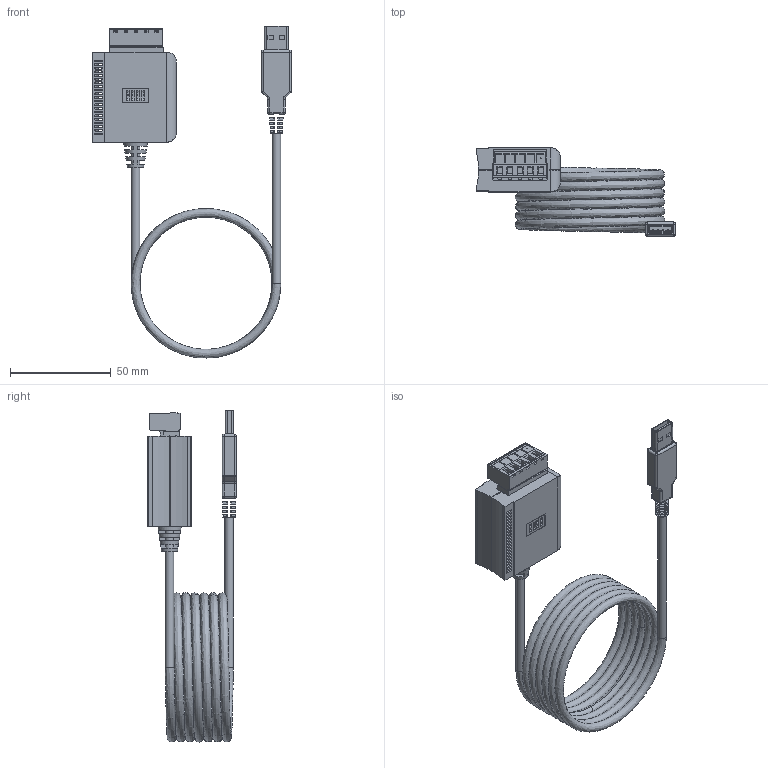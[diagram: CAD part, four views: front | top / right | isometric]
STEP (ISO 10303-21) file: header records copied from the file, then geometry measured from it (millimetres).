
FILE_DESCRIPTION(/* description */ (''),/* implementation_level */ '2;1');
FILE_NAME(/* name */ 'C:/Users/Leo/Desktop/AA CoolGear CADs/USB-232TTLMOS-IS/USB-232TTLMOS-IS Model3D LPV1.step',/* time_stamp */ '2021-08-11T15:28:47-04:00',/* author */ (''),/* organization */ (''),/* preprocessor_version */ 'ST-DEVELOPER v18.1',/* originating_system */ 'Autodesk Translation Framework v10.9.0.1377',/* authorisation */ '');
FILE_SCHEMA (('AUTOMOTIVE_DESIGN { 1 0 10303 214 3 1 1 }'));
Products named in the file (11): USB-232TTLMOS-IS; Component1; Component18; Component19; Connector green Phoenix 5 Assamble v2; Connector green Phoenix 5 Male v2; Terminator v1; Component16; Cord USB Cable male end v1 v1; Cord 36 v1; Component20
Assembly tree (11 placements, depth 3):
  USB-232TTLMOS-IS
    Component1
      Component18
      Component19
    Connector green Phoenix 5 Assamble v2
      Connector green Phoenix 5 Male v2
    Terminator v1
    Cord 36 v1  x2
    Component16
    Cord USB Cable male end v1 v1
    Component20
Bounding box: 98.92 x 44.07 x 165.06 mm (x, y, z)
Volume: 48083.8 mm3; surface area: 52927.3 mm2
Topology: 9 solids, 28 shells, 2232 faces, 6151 edges, 4005 vertices
Faces by surface type: plane 1540, cylinder 323, bspline 303, torus 32, cone 22, sphere 12
Full cylindrical faces by diameter (mm): 1.5 x5, 2.8 x5, 3 x5, 3.3 x5, 4 x10, 4.3 x2, 4.4 x1, 14.4 x1
Entity records: 88706 total; most frequent: CARTESIAN_POINT 32495, ORIENTED_EDGE 12278, DIRECTION 10253, EDGE_CURVE 6139, LINE 4511, VECTOR 4511, VERTEX_POINT 4005, AXIS2_PLACEMENT_3D 2871
